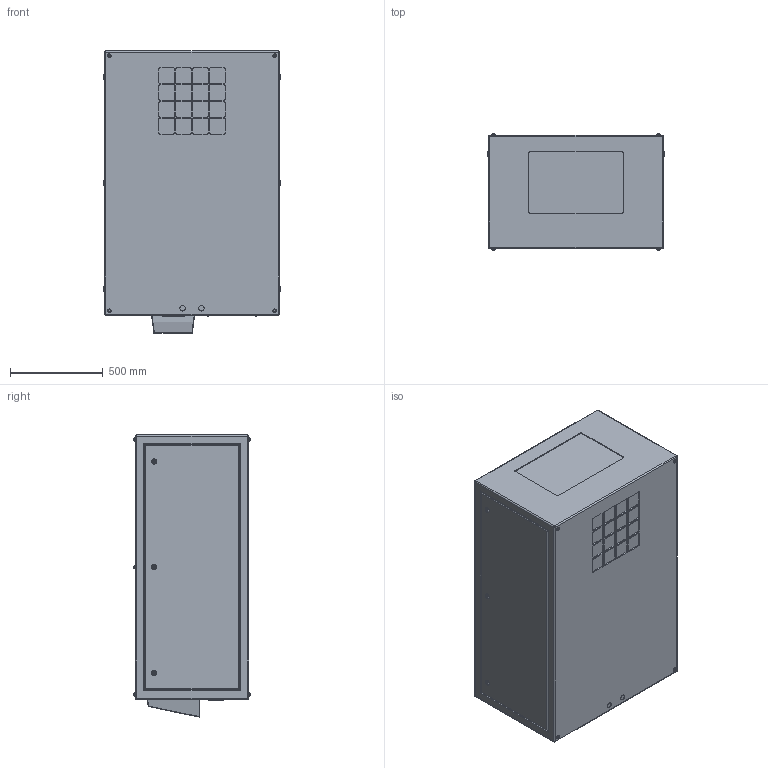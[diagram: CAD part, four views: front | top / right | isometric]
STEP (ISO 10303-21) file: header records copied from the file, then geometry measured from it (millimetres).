
FILE_DESCRIPTION (( 'STEP AP214' ), '1' );
FILE_NAME ('Cyclone 55.322.L R10.STEP', '2022-09-08T22:06:11', ( '' ), ( '' ), 'SwSTEP 2.0', 'SolidWorks 2020', '' );
FILE_SCHEMA (( 'AUTOMOTIVE_DESIGN' ));
Length unit declared in the file: inch
Products named in the file (1): Cyclone 55.322.L R10
Bounding box: 952.5 x 624.2 x 1517.65 mm (x, y, z)
Volume: 813209990 mm3; surface area: 6040752.2 mm2
Topology: 1 solids, 7 shells, 532 faces, 1256 edges, 804 vertices
Faces by surface type: plane 260, cylinder 220, torus 44, sphere 8
Entity records: 19325 total; most frequent: CARTESIAN_POINT 3129, DIRECTION 2694, ORIENTED_EDGE 2496, EDGE_CURVE 1248, AXIS2_PLACEMENT_3D 1009, VERTEX_POINT 804, VECTOR 676, LINE 676
